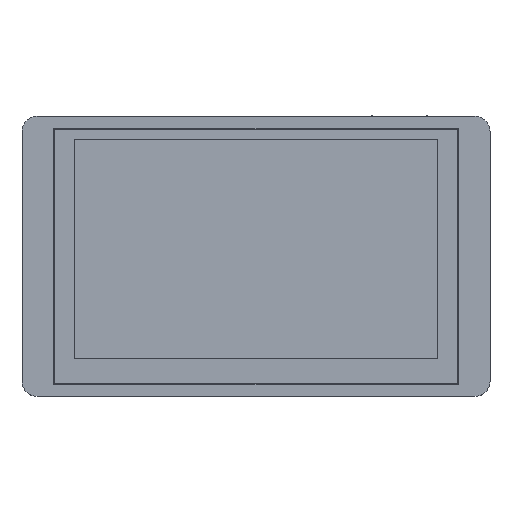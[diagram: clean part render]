
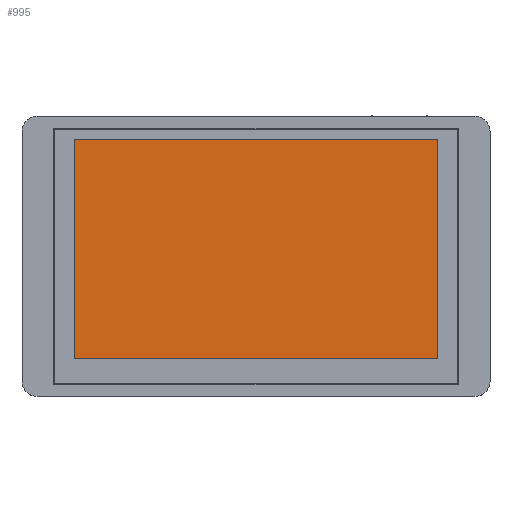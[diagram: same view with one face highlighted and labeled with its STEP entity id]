
A CAD part, top view. The second image highlights one B-rep face of the part: STEP entity #995.
In plain terms, the highlighted planar face has unit normal (0, 0, 1).
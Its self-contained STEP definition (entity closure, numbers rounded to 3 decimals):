
#956=DIRECTION('',(1.,0.,0.));
#957=VECTOR('',#956,109.);
#958=CARTESIAN_POINT('',(-54.5,32.9,1.925));
#959=LINE('',#958,#957);
#960=DIRECTION('',(0.,-1.,0.));
#961=VECTOR('',#960,65.8);
#962=CARTESIAN_POINT('',(54.5,32.9,1.925));
#963=LINE('',#962,#961);
#964=DIRECTION('',(-1.,0.,0.));
#965=VECTOR('',#964,109.);
#966=CARTESIAN_POINT('',(54.5,-32.9,1.925));
#967=LINE('',#966,#965);
#968=DIRECTION('',(0.,1.,0.));
#969=VECTOR('',#968,65.8);
#970=CARTESIAN_POINT('',(-54.5,-32.9,1.925));
#971=LINE('',#970,#969);
#972=CARTESIAN_POINT('',(54.5,32.9,1.925));
#973=CARTESIAN_POINT('',(-54.5,32.9,1.925));
#974=VERTEX_POINT('',#972);
#975=VERTEX_POINT('',#973);
#976=CARTESIAN_POINT('',(-54.5,-32.9,1.925));
#977=VERTEX_POINT('',#976);
#978=CARTESIAN_POINT('',(54.5,-32.9,1.925));
#979=VERTEX_POINT('',#978);
#980=CARTESIAN_POINT('',(-65.598,-39.678,1.925));
#981=DIRECTION('',(0.,0.,1.));
#982=DIRECTION('',(1.,0.,0.));
#983=AXIS2_PLACEMENT_3D('',#980,#981,#982);
#984=PLANE('',#983);
#986=ORIENTED_EDGE('',*,*,#985,.T.);
#988=ORIENTED_EDGE('',*,*,#987,.T.);
#990=ORIENTED_EDGE('',*,*,#989,.T.);
#992=ORIENTED_EDGE('',*,*,#991,.T.);
#993=EDGE_LOOP('',(#986,#988,#990,#992));
#994=FACE_OUTER_BOUND('',#993,.F.);
#995=ADVANCED_FACE('',(#994),#984,.T.);
#985=EDGE_CURVE('',#975,#974,#959,.T.);
#987=EDGE_CURVE('',#974,#979,#963,.T.);
#989=EDGE_CURVE('',#979,#977,#967,.T.);
#991=EDGE_CURVE('',#977,#975,#971,.T.);
